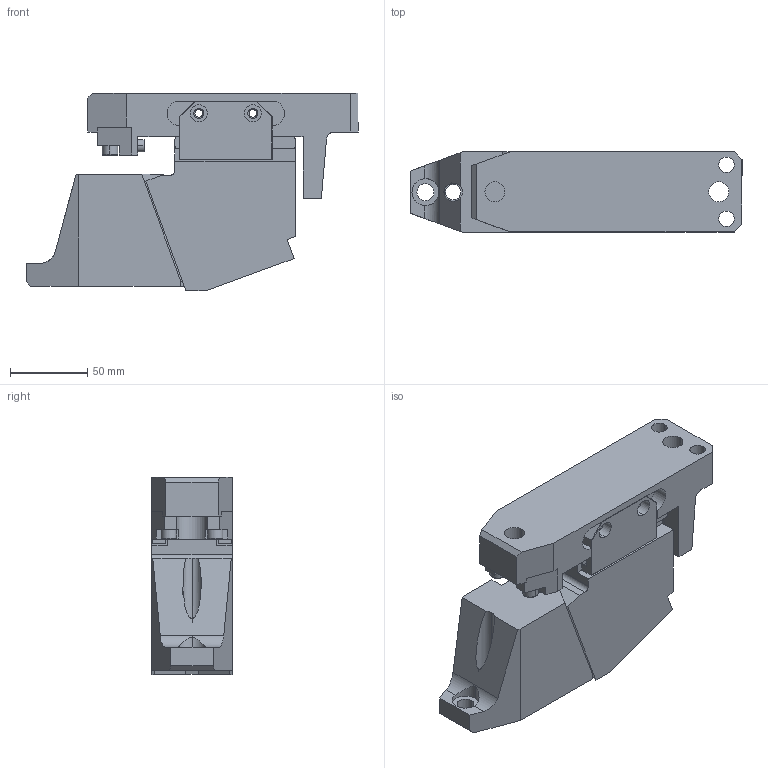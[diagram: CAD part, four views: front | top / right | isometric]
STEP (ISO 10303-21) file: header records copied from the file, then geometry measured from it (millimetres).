
FILE_DESCRIPTION (( 'STEP AP203' ), '1' );
FILE_NAME ('CLD052.70.step', '2014-05-05T08:34:56', ( '' ), ( '' ), 'SwSTEP 2.0', 'SolidWorks 2013', '' );
FILE_SCHEMA (( 'CONFIG_CONTROL_DESIGN' ));
Length unit declared in the file: millimetre
Products named in the file (4): CLD05270-01 CAM BASE; CLD05270-02 CAM SLIDER; CLD05270-03 CAM DRIVER; CLD052.70
Assembly tree (3 placements, depth 2):
  CLD052.70
    CLD05270-01 CAM BASE
    CLD05270-02 CAM SLIDER
    CLD05270-03 CAM DRIVER
Bounding box: 215 x 52 x 127.71 mm (x, y, z)
Volume: 822991.6 mm3; surface area: 127561.9 mm2
Topology: 3 solids, 7 shells, 362 faces, 931 edges, 591 vertices
Faces by surface type: plane 223, cylinder 112, cone 18, torus 9
Entity records: 11405 total; most frequent: CARTESIAN_POINT 2026, DIRECTION 1905, ORIENTED_EDGE 1842, EDGE_CURVE 921, AXIS2_PLACEMENT_3D 640, LINE 625, VECTOR 625, VERTEX_POINT 591
